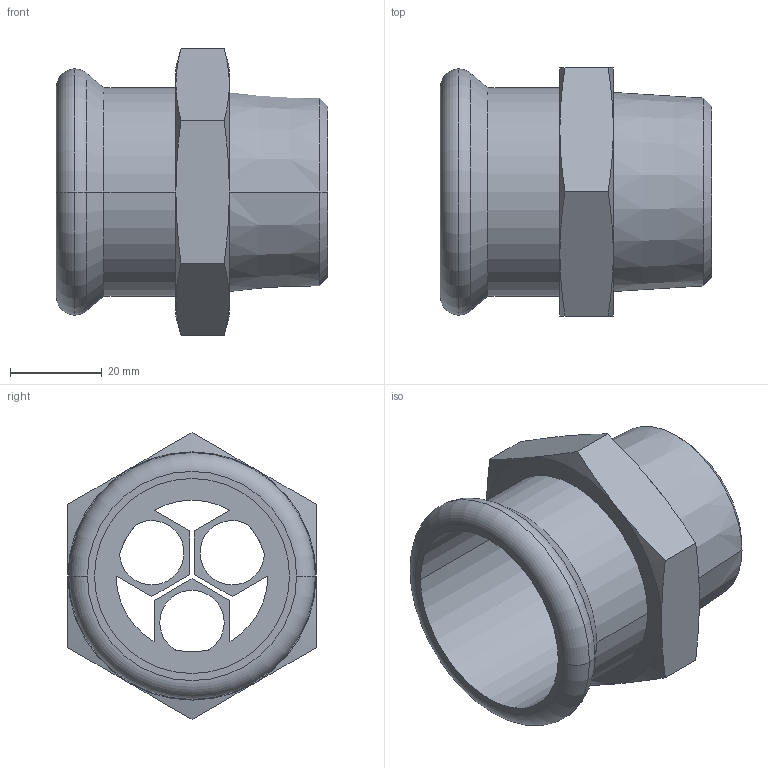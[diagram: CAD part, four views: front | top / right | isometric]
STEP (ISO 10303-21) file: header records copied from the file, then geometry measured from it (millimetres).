
FILE_DESCRIPTION(('OneSpaceDesigner STEP Export'),'2;1');
FILE_NAME('R2705 42xR1 1-4.stp','2010-06-09T11:18:54',(''),(''),'OneSpace Designer STEP processor for AP214 (Solid Model)','OneSpace Modeling 15.00A 14-Mar-2007 (C) CoCreate Software GmbH','');
FILE_SCHEMA(('AUTOMOTIVE_DESIGN { 1 0 10303 214 1 1 1 1 }'));
Length unit declared in the file: millimetre
Products named in the file (2): R2705_42xR1_1-4
Assembly tree (1 placements, depth 2):
  R2705_42xR1_1-4
    R2705_42xR1_1-4
Bounding box: 59 x 54 x 62.35 mm (x, y, z)
Volume: 38309 mm3; surface area: 20209.2 mm2
Topology: 1 solids, 1 shells, 60 faces, 152 edges, 94 vertices
Faces by surface type: plane 26, cone 18, cylinder 12, torus 4
Entity records: 2380 total; most frequent: CARTESIAN_POINT 1083, ORIENTED_EDGE 304, DIRECTION 198, EDGE_CURVE 152, VERTEX_POINT 94, EDGE_LOOP 68, AXIS2_PLACEMENT_3D 67, VECTOR 64
